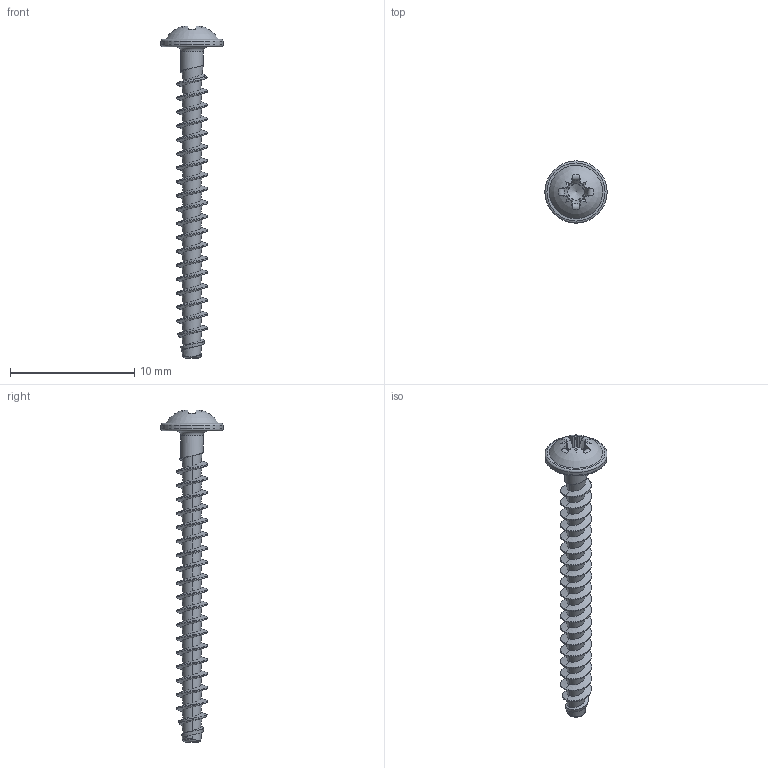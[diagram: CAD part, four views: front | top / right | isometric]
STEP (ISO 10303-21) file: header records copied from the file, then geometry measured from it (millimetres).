
FILE_DESCRIPTION(/* description */ (''),/* implementation_level */ '2;1');
FILE_NAME(/* name */ 'KN1031-Neu-STS-25x25-Z1.step',/* time_stamp */ '2017-10-12T13:42:26+02:00',/* author */ (''),/* organization */ (''),/* preprocessor_version */ 'ST-DEVELOPER v16',/* originating_system */ 'SIEMENS PLM Software NX 10.0',/* authorisation */ '');
FILE_SCHEMA (('AUTOMOTIVE_DESIGN { 1 0 10303 214 3 1 1 1 }'));
Length unit declared in the file: millimetre
Products named in the file (1): KN1031-Neu-STS-25x25-Z1
Bounding box: 5 x 5 x 26.68 mm (x, y, z)
Volume: 76.6 mm3; surface area: 280.3 mm2
Topology: 1 solids, 1 shells, 120 faces, 303 edges, 186 vertices
Faces by surface type: bspline 65, plane 27, cylinder 12, torus 8, cone 7, sphere 1
Full cylindrical faces by diameter (mm): 1.8 x1, 5 x1
Entity records: 7847 total; most frequent: CARTESIAN_POINT 5506, ORIENTED_EDGE 574, DIRECTION 296, EDGE_CURVE 287, VERTEX_POINT 180, B_SPLINE_CURVE_WITH_KNOTS 149, EDGE_LOOP 128, ADVANCED_FACE 119
